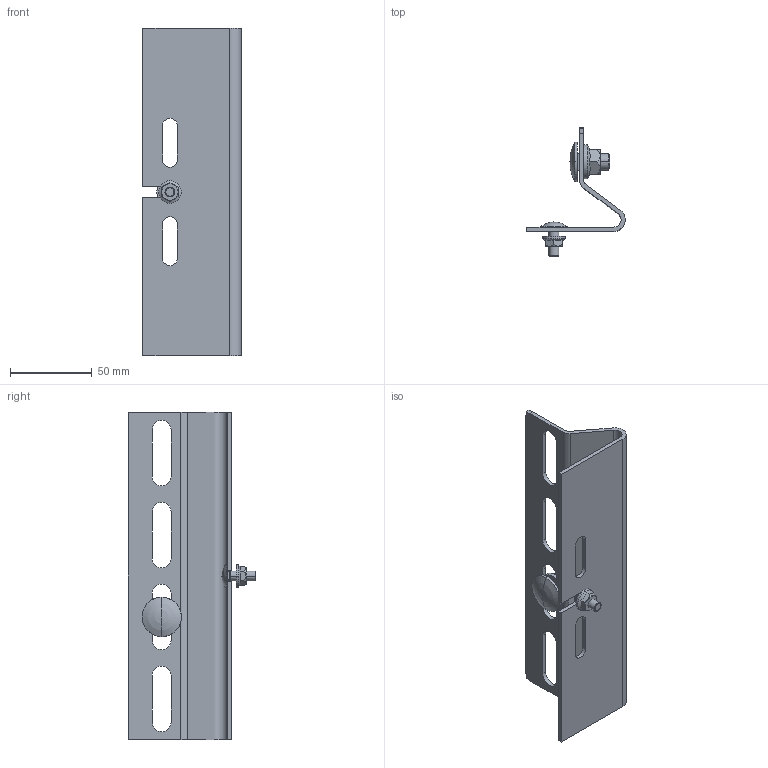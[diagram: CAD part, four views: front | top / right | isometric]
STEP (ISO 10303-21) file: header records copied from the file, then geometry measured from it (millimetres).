
FILE_DESCRIPTION(('Creo Elements/Direct Modeling STEP Export'),'2;1');
FILE_NAME('//pserver/office/EK/ME10-3D/3D-output/WPF-B montiert.stp','2021-02-09T13:44:48',(''),(''),'PTC Creo Elements/Direct Modeling STEP processor for AP214 (Solid Model)','PTC Creo Elements/Direct Modeling 19.0C 15-Aug-2015 (C) Parametric Technology GmbH','');
FILE_SCHEMA(('AUTOMOTIVE_DESIGN { 1 0 10303 214 1 1 1 1 }'));
Length unit declared in the file: millimetre
Products named in the file (6): WPF; FRSV_6x16; SEMS_6; FRSV_10x20; SEMS_10; WPF-B
Assembly tree (5 placements, depth 2):
  WPF-B
    SEMS_10
    FRSV_10x20
    SEMS_6
    FRSV_6x16
    WPF
Bounding box: 59.98 x 78 x 200 mm (x, y, z)
Volume: 65009.1 mm3; surface area: 54568.8 mm2
Topology: 5 solids, 5 shells, 134 faces, 331 edges, 205 vertices
Faces by surface type: plane 65, cylinder 37, cone 28, sphere 4
Entity records: 7123 total; most frequent: CARTESIAN_POINT 3754, ORIENTED_EDGE 654, DIRECTION 594, EDGE_CURVE 327, AXIS2_PLACEMENT_3D 208, VERTEX_POINT 205, VECTOR 178, LINE 178
